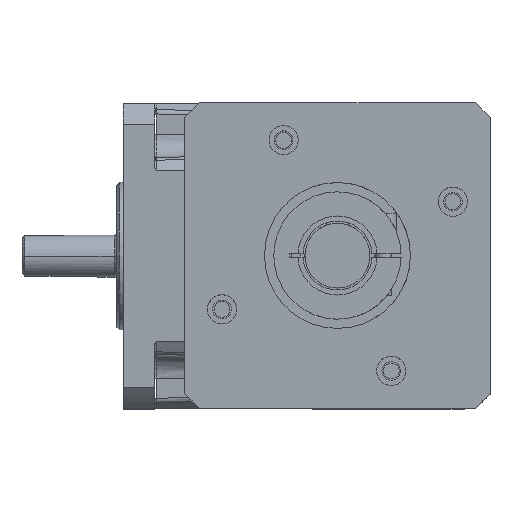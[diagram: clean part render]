
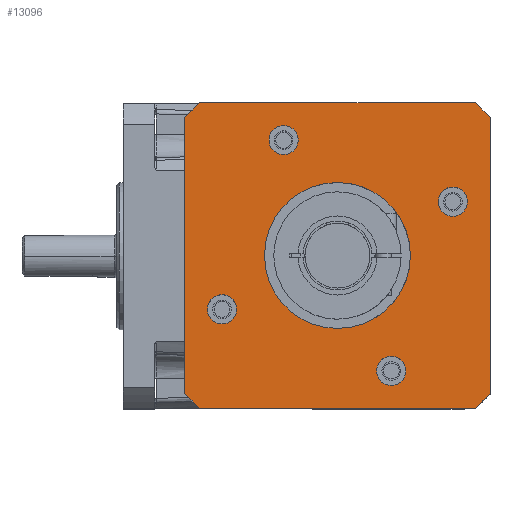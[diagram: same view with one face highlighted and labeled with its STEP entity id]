
A CAD part, top view. The second image highlights one B-rep face of the part: STEP entity #13096.
In plain terms, the highlighted planar face has unit normal (0, 0, 1).
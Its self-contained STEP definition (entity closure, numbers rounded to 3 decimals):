
#12415=CARTESIAN_POINT('',(0.,0.,235.));
#12416=DIRECTION('',(0.,0.,1.));
#12417=DIRECTION('',(0.,-1.,0.));
#12418=AXIS2_PLACEMENT_3D('',#12415,#12416,#12417);
#12420=CARTESIAN_POINT('',(0.,0.,235.));
#12421=DIRECTION('',(0.,0.,1.));
#12422=DIRECTION('',(0.,1.,0.));
#12423=AXIS2_PLACEMENT_3D('',#12420,#12421,#12422);
#12425=CARTESIAN_POINT('',(0.,0.,235.));
#12426=DIRECTION('',(0.,0.,-1.));
#12427=DIRECTION('',(0.742,-0.67,0.));
#12428=AXIS2_PLACEMENT_3D('',#12425,#12426,#12427);
#12430=DIRECTION('',(-1.,0.,0.));
#12431=VECTOR('',#12430,103.923);
#12432=CARTESIAN_POINT('',(51.962,-57.5,235.));
#12433=LINE('',#12432,#12431);
#12434=CARTESIAN_POINT('',(0.,0.,235.));
#12435=DIRECTION('',(0.,0.,-1.));
#12436=DIRECTION('',(-0.67,-0.742,0.));
#12437=AXIS2_PLACEMENT_3D('',#12434,#12435,#12436);
#12439=DIRECTION('',(0.,1.,0.));
#12440=VECTOR('',#12439,103.923);
#12441=CARTESIAN_POINT('',(-57.5,-51.962,235.));
#12442=LINE('',#12441,#12440);
#12443=CARTESIAN_POINT('',(0.,0.,235.));
#12444=DIRECTION('',(0.,0.,-1.));
#12445=DIRECTION('',(-0.742,0.67,0.));
#12446=AXIS2_PLACEMENT_3D('',#12443,#12444,#12445);
#12448=DIRECTION('',(1.,0.,0.));
#12449=VECTOR('',#12448,103.923);
#12450=CARTESIAN_POINT('',(-51.962,57.5,235.));
#12451=LINE('',#12450,#12449);
#12452=CARTESIAN_POINT('',(0.,0.,235.));
#12453=DIRECTION('',(0.,0.,-1.));
#12454=DIRECTION('',(0.67,0.742,0.));
#12455=AXIS2_PLACEMENT_3D('',#12452,#12453,#12454);
#12457=DIRECTION('',(0.,-1.,0.));
#12458=VECTOR('',#12457,103.923);
#12459=CARTESIAN_POINT('',(57.5,51.962,235.));
#12460=LINE('',#12459,#12458);
#12461=CARTESIAN_POINT('',(43.503,20.286,235.));
#12462=DIRECTION('',(0.,0.,-1.));
#12463=DIRECTION('',(-1.,0.,0.));
#12464=AXIS2_PLACEMENT_3D('',#12461,#12462,#12463);
#12466=CARTESIAN_POINT('',(43.503,20.286,235.));
#12467=DIRECTION('',(0.,0.,-1.));
#12468=DIRECTION('',(1.,0.,0.));
#12469=AXIS2_PLACEMENT_3D('',#12466,#12467,#12468);
#12471=CARTESIAN_POINT('',(-20.286,43.503,235.));
#12472=DIRECTION('',(0.,0.,-1.));
#12473=DIRECTION('',(-1.,0.,0.));
#12474=AXIS2_PLACEMENT_3D('',#12471,#12472,#12473);
#12476=CARTESIAN_POINT('',(-20.286,43.503,235.));
#12477=DIRECTION('',(0.,0.,-1.));
#12478=DIRECTION('',(1.,0.,0.));
#12479=AXIS2_PLACEMENT_3D('',#12476,#12477,#12478);
#12481=CARTESIAN_POINT('',(-43.503,-20.286,235.));
#12482=DIRECTION('',(0.,0.,-1.));
#12483=DIRECTION('',(-1.,0.,0.));
#12484=AXIS2_PLACEMENT_3D('',#12481,#12482,#12483);
#12486=CARTESIAN_POINT('',(-43.503,-20.286,235.));
#12487=DIRECTION('',(0.,0.,-1.));
#12488=DIRECTION('',(1.,0.,0.));
#12489=AXIS2_PLACEMENT_3D('',#12486,#12487,#12488);
#12491=CARTESIAN_POINT('',(20.286,-43.503,235.));
#12492=DIRECTION('',(0.,0.,-1.));
#12493=DIRECTION('',(1.,0.,0.));
#12494=AXIS2_PLACEMENT_3D('',#12491,#12492,#12493);
#12496=CARTESIAN_POINT('',(20.286,-43.503,235.));
#12497=DIRECTION('',(0.,0.,-1.));
#12498=DIRECTION('',(-1.,0.,0.));
#12499=AXIS2_PLACEMENT_3D('',#12496,#12497,#12498);
#12911=CARTESIAN_POINT('',(57.5,-51.962,235.));
#12912=CARTESIAN_POINT('',(51.962,-57.5,235.));
#12913=VERTEX_POINT('',#12911);
#12914=VERTEX_POINT('',#12912);
#12915=CARTESIAN_POINT('',(-51.962,-57.5,235.));
#12916=CARTESIAN_POINT('',(-57.5,-51.962,235.));
#12917=VERTEX_POINT('',#12915);
#12918=VERTEX_POINT('',#12916);
#12919=CARTESIAN_POINT('',(-57.5,51.962,235.));
#12920=CARTESIAN_POINT('',(-51.962,57.5,235.));
#12921=VERTEX_POINT('',#12919);
#12922=VERTEX_POINT('',#12920);
#12923=CARTESIAN_POINT('',(51.962,57.5,235.));
#12924=CARTESIAN_POINT('',(57.5,51.962,235.));
#12925=VERTEX_POINT('',#12923);
#12926=VERTEX_POINT('',#12924);
#12963=CARTESIAN_POINT('',(38.003,20.286,235.));
#12964=CARTESIAN_POINT('',(49.003,20.286,235.));
#12965=VERTEX_POINT('',#12963);
#12966=VERTEX_POINT('',#12964);
#12979=CARTESIAN_POINT('',(-25.786,43.503,235.));
#12980=VERTEX_POINT('',#12979);
#12981=CARTESIAN_POINT('',(-14.786,43.503,235.));
#12982=VERTEX_POINT('',#12981);
#12991=CARTESIAN_POINT('',(-49.003,-20.286,235.));
#12992=VERTEX_POINT('',#12991);
#12993=CARTESIAN_POINT('',(-38.003,-20.286,235.));
#12994=VERTEX_POINT('',#12993);
#13003=CARTESIAN_POINT('',(14.786,-43.503,235.));
#13004=VERTEX_POINT('',#13003);
#13005=CARTESIAN_POINT('',(25.786,-43.503,235.));
#13006=VERTEX_POINT('',#13005);
#13015=CARTESIAN_POINT('',(0.,-27.5,235.));
#13016=CARTESIAN_POINT('',(0.,27.5,235.));
#13017=VERTEX_POINT('',#13015);
#13018=VERTEX_POINT('',#13016);
#13043=CARTESIAN_POINT('',(0.,0.,235.));
#13044=DIRECTION('',(0.,0.,-1.));
#13045=DIRECTION('',(-1.,0.,0.));
#13046=AXIS2_PLACEMENT_3D('',#13043,#13044,#13045);
#13047=PLANE('',#13046);
#13049=ORIENTED_EDGE('',*,*,#13048,.T.);
#13051=ORIENTED_EDGE('',*,*,#13050,.T.);
#13053=ORIENTED_EDGE('',*,*,#13052,.T.);
#13055=ORIENTED_EDGE('',*,*,#13054,.T.);
#13057=ORIENTED_EDGE('',*,*,#13056,.T.);
#13059=ORIENTED_EDGE('',*,*,#13058,.T.);
#13061=ORIENTED_EDGE('',*,*,#13060,.T.);
#13063=ORIENTED_EDGE('',*,*,#13062,.T.);
#13064=EDGE_LOOP('',(#13049,#13051,#13053,#13055,#13057,#13059,#13061,#13063));
#13065=FACE_OUTER_BOUND('',#13064,.F.);
#13067=ORIENTED_EDGE('',*,*,#13066,.T.);
#13069=ORIENTED_EDGE('',*,*,#13068,.T.);
#13070=EDGE_LOOP('',(#13067,#13069));
#13071=FACE_BOUND('',#13070,.F.);
#13073=ORIENTED_EDGE('',*,*,#13072,.F.);
#13075=ORIENTED_EDGE('',*,*,#13074,.F.);
#13076=EDGE_LOOP('',(#13073,#13075));
#13077=FACE_BOUND('',#13076,.F.);
#13079=ORIENTED_EDGE('',*,*,#13078,.F.);
#13081=ORIENTED_EDGE('',*,*,#13080,.F.);
#13082=EDGE_LOOP('',(#13079,#13081));
#13083=FACE_BOUND('',#13082,.F.);
#13085=ORIENTED_EDGE('',*,*,#13084,.F.);
#13087=ORIENTED_EDGE('',*,*,#13086,.F.);
#13088=EDGE_LOOP('',(#13085,#13087));
#13089=FACE_BOUND('',#13088,.F.);
#13091=ORIENTED_EDGE('',*,*,#13090,.F.);
#13093=ORIENTED_EDGE('',*,*,#13092,.F.);
#13094=EDGE_LOOP('',(#13091,#13093));
#13095=FACE_BOUND('',#13094,.F.);
#13096=ADVANCED_FACE('',(#13065,#13071,#13077,#13083,#13089,#13095),#13047,.F.);
#12419=CIRCLE('',#12418,27.5);
#12424=CIRCLE('',#12423,27.5);
#12429=CIRCLE('',#12428,77.5);
#12438=CIRCLE('',#12437,77.5);
#12447=CIRCLE('',#12446,77.5);
#12456=CIRCLE('',#12455,77.5);
#12465=CIRCLE('',#12464,5.5);
#12470=CIRCLE('',#12469,5.5);
#12475=CIRCLE('',#12474,5.5);
#12480=CIRCLE('',#12479,5.5);
#12485=CIRCLE('',#12484,5.5);
#12490=CIRCLE('',#12489,5.5);
#12495=CIRCLE('',#12494,5.5);
#12500=CIRCLE('',#12499,5.5);
#13048=EDGE_CURVE('',#12913,#12914,#12429,.T.);
#13050=EDGE_CURVE('',#12914,#12917,#12433,.T.);
#13052=EDGE_CURVE('',#12917,#12918,#12438,.T.);
#13054=EDGE_CURVE('',#12918,#12921,#12442,.T.);
#13056=EDGE_CURVE('',#12921,#12922,#12447,.T.);
#13058=EDGE_CURVE('',#12922,#12925,#12451,.T.);
#13060=EDGE_CURVE('',#12925,#12926,#12456,.T.);
#13062=EDGE_CURVE('',#12926,#12913,#12460,.T.);
#13066=EDGE_CURVE('',#13017,#13018,#12419,.T.);
#13068=EDGE_CURVE('',#13018,#13017,#12424,.T.);
#13072=EDGE_CURVE('',#12965,#12966,#12465,.T.);
#13074=EDGE_CURVE('',#12966,#12965,#12470,.T.);
#13078=EDGE_CURVE('',#12980,#12982,#12475,.T.);
#13080=EDGE_CURVE('',#12982,#12980,#12480,.T.);
#13084=EDGE_CURVE('',#12992,#12994,#12485,.T.);
#13086=EDGE_CURVE('',#12994,#12992,#12490,.T.);
#13090=EDGE_CURVE('',#13006,#13004,#12495,.T.);
#13092=EDGE_CURVE('',#13004,#13006,#12500,.T.);
